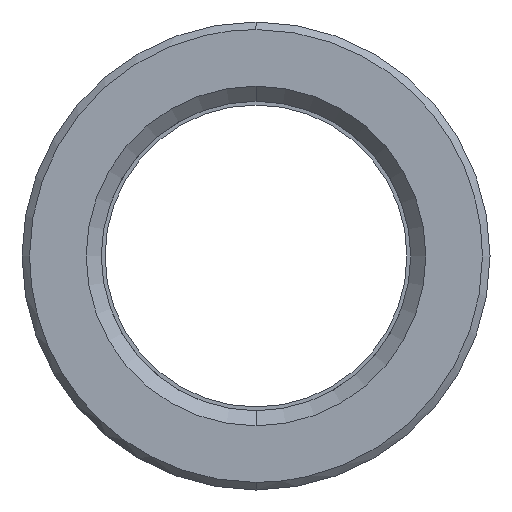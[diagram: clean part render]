
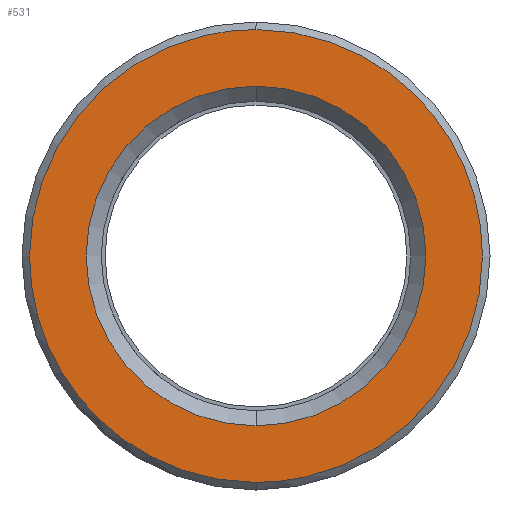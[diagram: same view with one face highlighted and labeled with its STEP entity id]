
A CAD part, left-side view. The second image highlights one B-rep face of the part: STEP entity #531.
In plain terms, the highlighted planar face has unit normal (-1, 0, 0).
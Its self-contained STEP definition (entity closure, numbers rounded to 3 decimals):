
#311=CARTESIAN_POINT('Axis2P3D Location',(0.,0.,0.)) ;
#315=CARTESIAN_POINT('Vertex',(0.,11.25,0.)) ;
#317=CARTESIAN_POINT('Vertex',(0.,0.,11.25)) ;
#320=CARTESIAN_POINT('Axis2P3D Location',(0.,0.,0.)) ;
#324=CARTESIAN_POINT('Vertex',(0.,0.,-11.25)) ;
#351=CARTESIAN_POINT('Axis2P3D Location',(0.,0.,0.)) ;
#355=CARTESIAN_POINT('Vertex',(0.,-11.25,0.)) ;
#358=CARTESIAN_POINT('Axis2P3D Location',(0.,0.,0.)) ;
#438=CARTESIAN_POINT('Axis2P3D Location',(0.,15.,0.)) ;
#444=CARTESIAN_POINT('Control Point',(0.,0.,-15.)) ;
#445=CARTESIAN_POINT('Control Point',(0.,1.359,-15.)) ;
#446=CARTESIAN_POINT('Control Point',(0.,2.718,-14.846)) ;
#447=CARTESIAN_POINT('Control Point',(0.,4.054,-14.538)) ;
#448=CARTESIAN_POINT('Control Point',(0.,6.784,-13.572)) ;
#449=CARTESIAN_POINT('Control Point',(0.,9.211,-11.985)) ;
#450=CARTESIAN_POINT('Control Point',(0.,10.379,-10.99)) ;
#451=CARTESIAN_POINT('Control Point',(0.,12.437,-8.725)) ;
#452=CARTESIAN_POINT('Control Point',(0.,13.866,-6.019)) ;
#453=CARTESIAN_POINT('Control Point',(0.,14.405,-4.583)) ;
#454=CARTESIAN_POINT('Control Point',(0.,14.829,-2.782)) ;
#455=CARTESIAN_POINT('Control Point',(0.,14.975,-0.952)) ;
#456=CARTESIAN_POINT('Control Point',(0.,14.992,-0.635)) ;
#457=CARTESIAN_POINT('Control Point',(0.,15.,-0.317)) ;
#458=CARTESIAN_POINT('Control Point',(0.,15.,0.)) ;
#459=CARTESIAN_POINT('Vertex',(0.,0.,-15.)) ;
#461=CARTESIAN_POINT('Vertex',(0.,15.,0.)) ;
#465=CARTESIAN_POINT('Control Point',(0.,-15.,0.)) ;
#466=CARTESIAN_POINT('Control Point',(0.,-15.,-1.518)) ;
#467=CARTESIAN_POINT('Control Point',(0.,-14.808,-3.036)) ;
#468=CARTESIAN_POINT('Control Point',(0.,-14.424,-4.521)) ;
#469=CARTESIAN_POINT('Control Point',(0.,-13.289,-7.363)) ;
#470=CARTESIAN_POINT('Control Point',(0.,-11.481,-9.832)) ;
#471=CARTESIAN_POINT('Control Point',(0.,-10.425,-10.945)) ;
#472=CARTESIAN_POINT('Control Point',(0.,-8.055,-12.881)) ;
#473=CARTESIAN_POINT('Control Point',(0.,-5.278,-14.165)) ;
#474=CARTESIAN_POINT('Control Point',(0.,-3.815,-14.627)) ;
#475=CARTESIAN_POINT('Control Point',(0.,-2.152,-14.927)) ;
#476=CARTESIAN_POINT('Control Point',(0.,-0.476,-14.994)) ;
#477=CARTESIAN_POINT('Control Point',(0.,-0.317,-14.998)) ;
#478=CARTESIAN_POINT('Control Point',(0.,-0.159,-15.)) ;
#479=CARTESIAN_POINT('Control Point',(0.,0.,-15.)) ;
#480=CARTESIAN_POINT('Vertex',(0.,-15.,0.)) ;
#484=CARTESIAN_POINT('Control Point',(0.,0.,15.)) ;
#485=CARTESIAN_POINT('Control Point',(0.,-1.359,15.)) ;
#486=CARTESIAN_POINT('Control Point',(0.,-2.718,14.846)) ;
#487=CARTESIAN_POINT('Control Point',(0.,-4.054,14.538)) ;
#488=CARTESIAN_POINT('Control Point',(0.,-6.784,13.572)) ;
#489=CARTESIAN_POINT('Control Point',(0.,-9.211,11.985)) ;
#490=CARTESIAN_POINT('Control Point',(0.,-10.379,10.99)) ;
#491=CARTESIAN_POINT('Control Point',(0.,-12.437,8.725)) ;
#492=CARTESIAN_POINT('Control Point',(0.,-13.866,6.019)) ;
#493=CARTESIAN_POINT('Control Point',(0.,-14.405,4.583)) ;
#494=CARTESIAN_POINT('Control Point',(0.,-14.829,2.782)) ;
#495=CARTESIAN_POINT('Control Point',(0.,-14.975,0.952)) ;
#496=CARTESIAN_POINT('Control Point',(0.,-14.992,0.635)) ;
#497=CARTESIAN_POINT('Control Point',(0.,-15.,0.317)) ;
#498=CARTESIAN_POINT('Control Point',(0.,-15.,0.)) ;
#499=CARTESIAN_POINT('Vertex',(0.,0.,15.)) ;
#503=CARTESIAN_POINT('Control Point',(0.,15.,0.)) ;
#504=CARTESIAN_POINT('Control Point',(0.,15.,1.518)) ;
#505=CARTESIAN_POINT('Control Point',(0.,14.808,3.036)) ;
#506=CARTESIAN_POINT('Control Point',(0.,14.424,4.521)) ;
#507=CARTESIAN_POINT('Control Point',(0.,13.289,7.363)) ;
#508=CARTESIAN_POINT('Control Point',(0.,11.481,9.832)) ;
#509=CARTESIAN_POINT('Control Point',(0.,10.425,10.945)) ;
#510=CARTESIAN_POINT('Control Point',(0.,8.055,12.881)) ;
#511=CARTESIAN_POINT('Control Point',(0.,5.278,14.165)) ;
#512=CARTESIAN_POINT('Control Point',(0.,3.815,14.627)) ;
#513=CARTESIAN_POINT('Control Point',(0.,2.152,14.927)) ;
#514=CARTESIAN_POINT('Control Point',(0.,0.476,14.994)) ;
#515=CARTESIAN_POINT('Control Point',(0.,0.317,14.998)) ;
#516=CARTESIAN_POINT('Control Point',(0.,0.159,15.)) ;
#517=CARTESIAN_POINT('Control Point',(0.,0.,15.)) ;
#312=DIRECTION('Axis2P3D Direction',(-1.,0.,0.)) ;
#321=DIRECTION('Axis2P3D Direction',(-1.,0.,0.)) ;
#352=DIRECTION('Axis2P3D Direction',(-1.,0.,0.)) ;
#359=DIRECTION('Axis2P3D Direction',(-1.,0.,0.)) ;
#439=DIRECTION('Axis2P3D Direction',(-1.,0.,0.)) ;
#440=DIRECTION('Axis2P3D XDirection',(0.,0.,1.)) ;
#313=AXIS2_PLACEMENT_3D('Circle Axis2P3D',#311,#312,$) ;
#322=AXIS2_PLACEMENT_3D('Circle Axis2P3D',#320,#321,$) ;
#353=AXIS2_PLACEMENT_3D('Circle Axis2P3D',#351,#352,$) ;
#360=AXIS2_PLACEMENT_3D('Circle Axis2P3D',#358,#359,$) ;
#441=AXIS2_PLACEMENT_3D('Plane Axis2P3D',#438,#439,#440) ;
#520=ORIENTED_EDGE('',*,*,#463,.F.) ;
#521=ORIENTED_EDGE('',*,*,#482,.F.) ;
#522=ORIENTED_EDGE('',*,*,#501,.F.) ;
#523=ORIENTED_EDGE('',*,*,#518,.F.) ;
#526=ORIENTED_EDGE('',*,*,#319,.T.) ;
#527=ORIENTED_EDGE('',*,*,#362,.T.) ;
#528=ORIENTED_EDGE('',*,*,#357,.T.) ;
#529=ORIENTED_EDGE('',*,*,#326,.T.) ;
#530=FACE_BOUND('',#525,.T.) ;
#531=ADVANCED_FACE('553-20X96',(#524,#530),#442,.T.) ;
#443=B_SPLINE_CURVE_WITH_KNOTS('',5,(#444,#445,#446,#447,#448,#449,#450,#451,#452,#453,#454,#455,#456,#457,#458),.UNSPECIFIED.,.F.,.U.,(6,3,3,3,6),(33.321,42.932,53.665,64.398,66.642),.UNSPECIFIED.) ;
#464=B_SPLINE_CURVE_WITH_KNOTS('',5,(#465,#466,#467,#468,#469,#470,#471,#472,#473,#474,#475,#476,#477,#478,#479),.UNSPECIFIED.,.F.,.U.,(6,3,3,3,6),(0.,10.733,21.466,32.199,33.321),.UNSPECIFIED.) ;
#483=B_SPLINE_CURVE_WITH_KNOTS('',5,(#484,#485,#486,#487,#488,#489,#490,#491,#492,#493,#494,#495,#496,#497,#498),.UNSPECIFIED.,.F.,.U.,(6,3,3,3,6),(33.321,42.932,53.665,64.398,66.642),.UNSPECIFIED.) ;
#502=B_SPLINE_CURVE_WITH_KNOTS('',5,(#503,#504,#505,#506,#507,#508,#509,#510,#511,#512,#513,#514,#515,#516,#517),.UNSPECIFIED.,.F.,.U.,(6,3,3,3,6),(0.,10.733,21.466,32.199,33.321),.UNSPECIFIED.) ;
#314=CIRCLE('generated circle',#313,11.25) ;
#323=CIRCLE('generated circle',#322,11.25) ;
#354=CIRCLE('generated circle',#353,11.25) ;
#361=CIRCLE('generated circle',#360,11.25) ;
#319=EDGE_CURVE('',#316,#318,#314,.F.) ;
#326=EDGE_CURVE('',#325,#316,#323,.F.) ;
#357=EDGE_CURVE('',#356,#325,#354,.F.) ;
#362=EDGE_CURVE('',#318,#356,#361,.F.) ;
#463=EDGE_CURVE('',#460,#462,#443,.T.) ;
#482=EDGE_CURVE('',#481,#460,#464,.T.) ;
#501=EDGE_CURVE('',#500,#481,#483,.T.) ;
#518=EDGE_CURVE('',#462,#500,#502,.T.) ;
#519=EDGE_LOOP('',(#520,#521,#522,#523)) ;
#525=EDGE_LOOP('',(#526,#527,#528,#529)) ;
#524=FACE_OUTER_BOUND('',#519,.T.) ;
#442=PLANE('Plane',#441) ;
#316=VERTEX_POINT('',#315) ;
#318=VERTEX_POINT('',#317) ;
#325=VERTEX_POINT('',#324) ;
#356=VERTEX_POINT('',#355) ;
#460=VERTEX_POINT('',#459) ;
#462=VERTEX_POINT('',#461) ;
#481=VERTEX_POINT('',#480) ;
#500=VERTEX_POINT('',#499) ;
